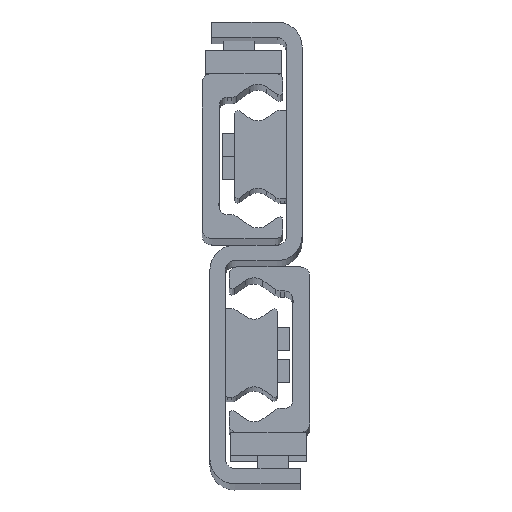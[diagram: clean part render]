
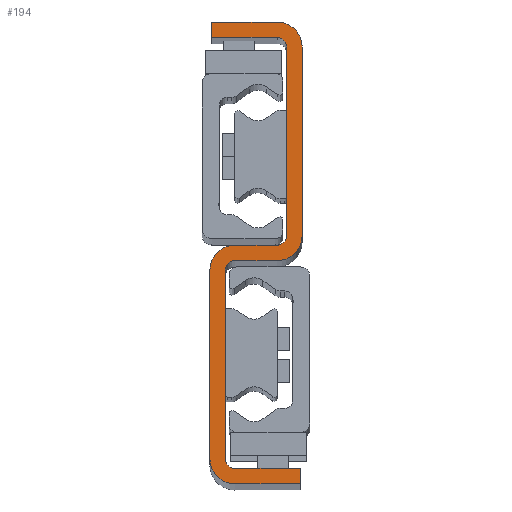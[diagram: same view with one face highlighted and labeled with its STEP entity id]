
A CAD part, top view. The second image highlights one B-rep face of the part: STEP entity #194.
In plain terms, the highlighted planar face has unit normal (0, 0, 1).
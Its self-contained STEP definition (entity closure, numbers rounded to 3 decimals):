
#194=ADVANCED_FACE('',(#625),#626,.T.);
#625=FACE_OUTER_BOUND('',#1291,.T.);
#626=PLANE('',#1292);
#1291=EDGE_LOOP('',(#2605,#2606,#2607,#2608,#2609,#2610,#2611,#2612,#2613,#2614,#2615,#2616,#2617,#2618,#2619,#2620,#2621,#2622,#2623,#2624));
#1292=AXIS2_PLACEMENT_3D('',#2625,#2626,#2627);
#2605=ORIENTED_EDGE('',*,*,#4445,.F.);
#2606=ORIENTED_EDGE('',*,*,#4503,.F.);
#2607=ORIENTED_EDGE('',*,*,#4500,.F.);
#2608=ORIENTED_EDGE('',*,*,#4497,.F.);
#2609=ORIENTED_EDGE('',*,*,#4494,.F.);
#2610=ORIENTED_EDGE('',*,*,#4491,.F.);
#2611=ORIENTED_EDGE('',*,*,#4488,.F.);
#2612=ORIENTED_EDGE('',*,*,#4485,.F.);
#2613=ORIENTED_EDGE('',*,*,#4482,.F.);
#2614=ORIENTED_EDGE('',*,*,#4479,.F.);
#2615=ORIENTED_EDGE('',*,*,#4476,.F.);
#2616=ORIENTED_EDGE('',*,*,#4473,.F.);
#2617=ORIENTED_EDGE('',*,*,#4470,.F.);
#2618=ORIENTED_EDGE('',*,*,#4467,.F.);
#2619=ORIENTED_EDGE('',*,*,#4464,.F.);
#2620=ORIENTED_EDGE('',*,*,#4461,.F.);
#2621=ORIENTED_EDGE('',*,*,#4458,.F.);
#2622=ORIENTED_EDGE('',*,*,#4455,.F.);
#2623=ORIENTED_EDGE('',*,*,#4452,.F.);
#2624=ORIENTED_EDGE('',*,*,#4449,.F.);
#2625=CARTESIAN_POINT('',(-14.,26.,1413.0));
#2626=DIRECTION('',(0.0,0.0,1.0));
#2627=DIRECTION('',(1.0,0.0,0.0));
#4445=EDGE_CURVE('',#5403,#5404,#5405,.T.);
#4449=EDGE_CURVE('',#5404,#5411,#5412,.T.);
#4452=EDGE_CURVE('',#5411,#5416,#5417,.T.);
#4455=EDGE_CURVE('',#5416,#5421,#5422,.T.);
#4458=EDGE_CURVE('',#5421,#5426,#5427,.T.);
#4461=EDGE_CURVE('',#5426,#5431,#5432,.T.);
#4464=EDGE_CURVE('',#5431,#5436,#5437,.T.);
#4467=EDGE_CURVE('',#5436,#5441,#5442,.T.);
#4470=EDGE_CURVE('',#5441,#5446,#5447,.T.);
#4473=EDGE_CURVE('',#5446,#5451,#5452,.T.);
#4476=EDGE_CURVE('',#5451,#5456,#5457,.T.);
#4479=EDGE_CURVE('',#5456,#5461,#5462,.T.);
#4482=EDGE_CURVE('',#5461,#5466,#5467,.T.);
#4485=EDGE_CURVE('',#5466,#5471,#5472,.T.);
#4488=EDGE_CURVE('',#5471,#5476,#5477,.T.);
#4491=EDGE_CURVE('',#5476,#5481,#5482,.T.);
#4494=EDGE_CURVE('',#5481,#5486,#5487,.T.);
#4497=EDGE_CURVE('',#5486,#5491,#5492,.T.);
#4500=EDGE_CURVE('',#5491,#5496,#5497,.T.);
#4503=EDGE_CURVE('',#5496,#5403,#5501,.T.);
#5403=VERTEX_POINT('',#6901);
#5404=VERTEX_POINT('',#6902);
#5405=LINE('',#6903,#6904);
#5411=VERTEX_POINT('',#6913);
#5412=CIRCLE('',#6914,2.5);
#5416=VERTEX_POINT('',#6919);
#5417=LINE('',#6920,#6921);
#5421=VERTEX_POINT('',#6927);
#5422=CIRCLE('',#6928,2.5);
#5426=VERTEX_POINT('',#6933);
#5427=LINE('',#6934,#6935);
#5431=VERTEX_POINT('',#6941);
#5432=LINE('',#6942,#6943);
#5436=VERTEX_POINT('',#6949);
#5437=LINE('',#6950,#6951);
#5441=VERTEX_POINT('',#6957);
#5442=CIRCLE('',#6958,6.5);
#5446=VERTEX_POINT('',#6963);
#5447=LINE('',#6964,#6965);
#5451=VERTEX_POINT('',#6971);
#5452=CIRCLE('',#6972,6.5);
#5456=VERTEX_POINT('',#6977);
#5457=LINE('',#6978,#6979);
#5461=VERTEX_POINT('',#6985);
#5462=CIRCLE('',#6986,2.5);
#5466=VERTEX_POINT('',#6991);
#5467=LINE('',#6992,#6993);
#5471=VERTEX_POINT('',#6999);
#5472=CIRCLE('',#7000,2.5);
#5476=VERTEX_POINT('',#7005);
#5477=LINE('',#7006,#7007);
#5481=VERTEX_POINT('',#7013);
#5482=LINE('',#7014,#7015);
#5486=VERTEX_POINT('',#7021);
#5487=LINE('',#7022,#7023);
#5491=VERTEX_POINT('',#7029);
#5492=CIRCLE('',#7030,6.5);
#5496=VERTEX_POINT('',#7035);
#5497=LINE('',#7036,#7037);
#5501=CIRCLE('',#7043,6.5);
#6901=CARTESIAN_POINT('',(-8.5,24.,1413.0));
#6902=CARTESIAN_POINT('',(-19.5,24.,1413.0));
#6903=CARTESIAN_POINT('',(-8.5,24.,1413.0));
#6904=VECTOR('',#8493,1.0);
#6913=CARTESIAN_POINT('',(-22.,21.5,1413.0));
#6914=AXIS2_PLACEMENT_3D('',#8497,#8498,#8499);
#6919=CARTESIAN_POINT('',(-22.,-27.5,1413.0));
#6920=CARTESIAN_POINT('',(-22.,-27.5,1413.0));
#6921=VECTOR('',#8504,1.0);
#6927=CARTESIAN_POINT('',(-19.5,-30.,1413.0));
#6928=AXIS2_PLACEMENT_3D('',#8507,#8508,#8509);
#6933=CARTESIAN_POINT('',(-2.5,-30.,1413.0));
#6934=CARTESIAN_POINT('',(-19.5,-30.,1413.0));
#6935=VECTOR('',#8514,1.0);
#6941=CARTESIAN_POINT('',(-2.5,-34.,1413.0));
#6942=CARTESIAN_POINT('',(-2.5,-34.,1413.0));
#6943=VECTOR('',#8517,1.0);
#6949=CARTESIAN_POINT('',(-19.5,-34.,1413.0));
#6950=CARTESIAN_POINT('',(-19.5,-34.,1413.0));
#6951=VECTOR('',#8520,1.0);
#6957=CARTESIAN_POINT('',(-26.,-27.5,1413.0));
#6958=AXIS2_PLACEMENT_3D('',#8523,#8524,#8525);
#6963=CARTESIAN_POINT('',(-26.,21.5,1413.0));
#6964=CARTESIAN_POINT('',(-26.,21.5,1413.0));
#6965=VECTOR('',#8530,1.0);
#6971=CARTESIAN_POINT('',(-19.5,28.,1413.0));
#6972=AXIS2_PLACEMENT_3D('',#8533,#8534,#8535);
#6977=CARTESIAN_POINT('',(-8.5,28.,1413.0));
#6978=CARTESIAN_POINT('',(-8.5,28.,1413.0));
#6979=VECTOR('',#8540,1.0);
#6985=CARTESIAN_POINT('',(-6.,30.5,1413.0));
#6986=AXIS2_PLACEMENT_3D('',#8543,#8544,#8545);
#6991=CARTESIAN_POINT('',(-6.,79.5,1413.0));
#6992=CARTESIAN_POINT('',(-6.,79.5,1413.0));
#6993=VECTOR('',#8550,1.0);
#6999=CARTESIAN_POINT('',(-8.5,82.,1413.0));
#7000=AXIS2_PLACEMENT_3D('',#8553,#8554,#8555);
#7005=CARTESIAN_POINT('',(-25.5,82.,1413.0));
#7006=CARTESIAN_POINT('',(-25.5,82.,1413.0));
#7007=VECTOR('',#8560,1.0);
#7013=CARTESIAN_POINT('',(-25.5,86.,1413.0));
#7014=CARTESIAN_POINT('',(-25.5,86.,1413.0));
#7015=VECTOR('',#8563,1.0);
#7021=CARTESIAN_POINT('',(-8.5,86.,1413.0));
#7022=CARTESIAN_POINT('',(-25.5,86.,1413.0));
#7023=VECTOR('',#8566,1.0);
#7029=CARTESIAN_POINT('',(-2.,79.5,1413.0));
#7030=AXIS2_PLACEMENT_3D('',#8569,#8570,#8571);
#7035=CARTESIAN_POINT('',(-2.,30.5,1413.0));
#7036=CARTESIAN_POINT('',(-2.,79.5,1413.0));
#7037=VECTOR('',#8576,1.0);
#7043=AXIS2_PLACEMENT_3D('',#8579,#8580,#8581);
#8493=DIRECTION('',(-1.0,0.,0.0));
#8497=CARTESIAN_POINT('',(-19.5,21.5,1413.0));
#8498=DIRECTION('',(0.0,0.0,1.0));
#8499=DIRECTION('',(1.0,0.0,0.0));
#8504=DIRECTION('',(-0.0,-1.0,-0.0));
#8507=CARTESIAN_POINT('',(-19.5,-27.5,1413.0));
#8508=DIRECTION('',(0.0,0.0,1.0));
#8509=DIRECTION('',(1.0,0.0,0.0));
#8514=DIRECTION('',(1.,0.,0.0));
#8517=DIRECTION('',(-0.0,-1.0,-0.0));
#8520=DIRECTION('',(-1.,0.,-0.0));
#8523=CARTESIAN_POINT('',(-19.5,-27.5,1413.0));
#8524=DIRECTION('',(0.0,0.0,-1.0));
#8525=DIRECTION('',(1.0,0.0,0.0));
#8530=DIRECTION('',(0.0,1.0,0.0));
#8533=CARTESIAN_POINT('',(-19.5,21.5,1413.0));
#8534=DIRECTION('',(0.0,0.0,-1.0));
#8535=DIRECTION('',(1.0,0.0,0.0));
#8540=DIRECTION('',(1.0,0.,0.0));
#8543=CARTESIAN_POINT('',(-8.5,30.5,1413.0));
#8544=DIRECTION('',(0.0,0.0,1.0));
#8545=DIRECTION('',(1.0,0.0,0.0));
#8550=DIRECTION('',(0.0,1.0,0.0));
#8553=CARTESIAN_POINT('',(-8.5,79.5,1413.0));
#8554=DIRECTION('',(0.0,0.0,1.0));
#8555=DIRECTION('',(1.0,0.0,0.0));
#8560=DIRECTION('',(-1.,0.,0.0));
#8563=DIRECTION('',(0.0,1.0,0.0));
#8566=DIRECTION('',(1.,0.,0.0));
#8569=CARTESIAN_POINT('',(-8.5,79.5,1413.0));
#8570=DIRECTION('',(0.0,0.0,-1.0));
#8571=DIRECTION('',(1.0,0.0,0.0));
#8576=DIRECTION('',(0.,-1.0,0.0));
#8579=CARTESIAN_POINT('',(-8.5,30.5,1413.0));
#8580=DIRECTION('',(0.0,0.0,-1.0));
#8581=DIRECTION('',(1.0,0.0,0.0));
